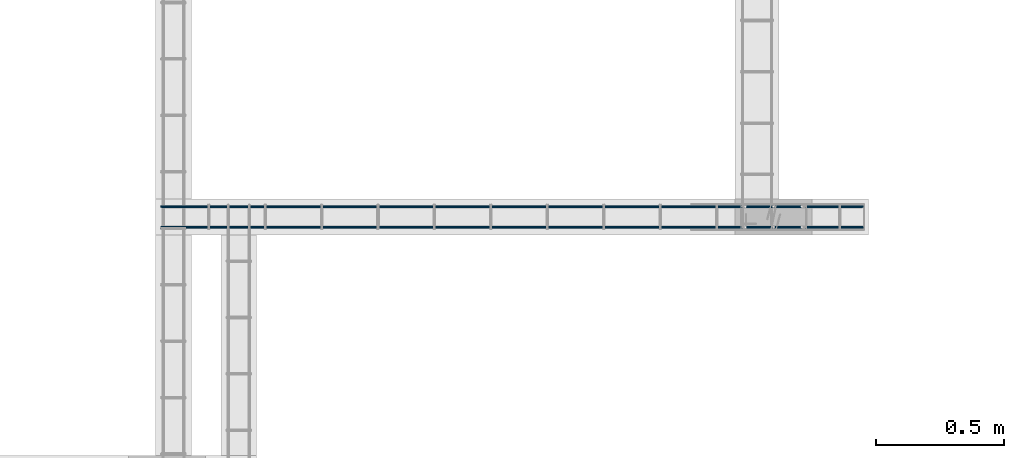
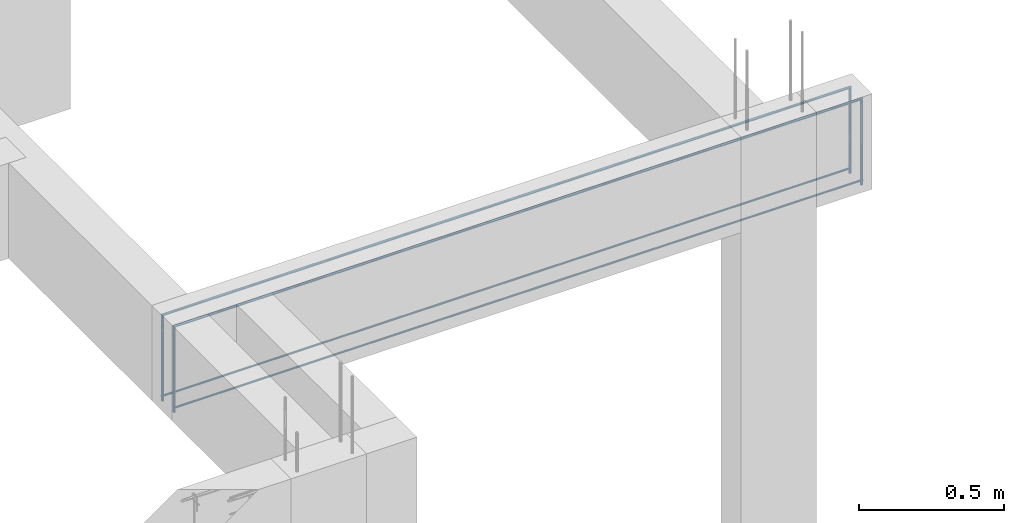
# One storey, part 106 of 236: 4 reinforcing bars.
"""IFC4 building model written with IfcOpenShell, lengths in centimetres."""

import ifcopenshell
import ifcopenshell.guid

model = None  # the IFC model being written
_history = None  # IfcOwnerHistory: only IFC2X3 demands one
_inside = {}  # id of a spatial element -> (the spatial element, [elements in it])
_under = {}  # id of a project, library or spatial element -> (it, [spatial elements below it])
_declared = {}  # id of a project -> (the project, [libraries it declares])
_typed = {}  # id of a type object -> (the type object, [elements of that type])
_made_of = {}  # id of a material, layer set ... -> (it, [elements and type objects made of it])


def new_model(schema):
    """Start an empty IFC model of exactly this schema.

    Asked for "IFC4X3", IfcOpenShell would pick the latest addendum, in which some entities
    have other attributes; the version numbers below select the first issue.
    IFC2X3 requires an IfcOwnerHistory on every rooted entity: one is made here for all.
    """
    global model, _history
    if schema == "IFC4X3":
        model = ifcopenshell.file(schema_version=(4, 3, 0, 0))
    else:
        model = ifcopenshell.file(schema=schema)
    _inside.clear()
    _under.clear()
    _declared.clear()
    _typed.clear()
    _made_of.clear()
    _history = None
    if model.schema == "IFC2X3":
        org = make("IfcOrganization", Name="unknown")
        user = make(
            "IfcPersonAndOrganization",
            ThePerson=make("IfcPerson", FamilyName="unknown"),
            TheOrganization=org,
        )
        app = make(
            "IfcApplication",
            ApplicationDeveloper=org,
            Version="unknown",
            ApplicationFullName="unknown",
            ApplicationIdentifier="unknown",
        )
        _history = make(
            "IfcOwnerHistory",
            OwningUser=user,
            OwningApplication=app,
            ChangeAction="ADDED",
            CreationDate=0,
        )
    return model


def make(cls, **values):
    """One entity of the class cls with the attributes given. An attribute that is None is left unset."""
    return model.create_entity(
        cls, **{name: value for name, value in values.items() if value is not None}
    )


def entity(cls, *values):
    """Any entity or typed value of the class cls, its attributes in the order of the schema. None: left unset."""
    e = model.create_entity(cls)
    for i, value in enumerate(values):
        if value is not None:
            e[i] = value
    return e


def rooted(cls, **values):
    """An entity with a GlobalId (a new one), such as an element, a storey or a relation."""
    return make(cls, GlobalId=ifcopenshell.guid.new(), OwnerHistory=_history, **values)


def si_unit(unit_type, name, prefix=None):
    """IfcSIUnit, for example si_unit("LENGTHUNIT", "METRE", prefix="MILLI")."""
    return make("IfcSIUnit", UnitType=unit_type, Prefix=prefix, Name=name)


def derived_unit(unit_type, elements):
    """IfcDerivedUnit: a product of units, each with its exponent."""
    return make(
        "IfcDerivedUnit",
        Elements=[
            make("IfcDerivedUnitElement", Unit=unit, Exponent=power)
            for unit, power in elements
        ],
        UnitType=unit_type,
    )


def assignment(units):
    """IfcUnitAssignment: the units of a project."""
    return None if units is None else make("IfcUnitAssignment", Units=units)


def point(xyz):
    """IfcCartesianPoint."""
    return None if xyz is None else make("IfcCartesianPoint", Coordinates=xyz)


def direction(xyz):
    """IfcDirection."""
    return None if xyz is None else make("IfcDirection", DirectionRatios=xyz)


def frame(location, z_axis=None, x_axis=None):
    """IfcAxis2Placement3D, a coordinate frame: its origin and axes. An axis left out is left unset."""
    return make(
        "IfcAxis2Placement3D",
        Location=point(location),
        Axis=direction(z_axis),
        RefDirection=direction(x_axis),
    )


def origin_with_axes():
    """The frame at (0, 0, 0) with the z axis (0, 0, 1) and the x axis (1, 0, 0) written out."""
    return frame((0.0, 0.0, 0.0), z_axis=(0.0, 0.0, 1.0), x_axis=(1.0, 0.0, 0.0))


def place(relative_to, where):
    """IfcLocalPlacement: puts the frame where relative to a parent placement (None: the world)."""
    return make(
        "IfcLocalPlacement", PlacementRelTo=relative_to, RelativePlacement=where
    )


def context(
    kind, dimensions, precision=None, world=None, true_north=None, identifier=None
):
    """IfcGeometricRepresentationContext, for example the 3D "Model" context."""
    return make(
        "IfcGeometricRepresentationContext",
        ContextIdentifier=identifier,
        ContextType=kind,
        CoordinateSpaceDimension=dimensions,
        Precision=precision,
        WorldCoordinateSystem=world,
        TrueNorth=true_north,
    )


def project(units=None, contexts=None):
    """IfcProject with its units and contexts."""
    return rooted(
        "IfcProject",
        Name="project",
        RepresentationContexts=contexts,
        UnitsInContext=assignment(units),
    )


def spatial(cls, under=None, at=None, **own):
    """A site, building, storey or space (cls), placed at a placement, below another one or the project."""
    s = rooted(cls, ObjectPlacement=at, **own)
    if under is not None:
        _under.setdefault(under.id(), (under, []))[1].append(s)
    return s


def shape(context_of_items, identifier, shape_type, items):
    """IfcShapeRepresentation: the items that make up one representation, for example the "Body"."""
    return make(
        "IfcShapeRepresentation",
        ContextOfItems=context_of_items,
        RepresentationIdentifier=identifier,
        RepresentationType=shape_type,
        Items=items,
    )


def made_of(thing, what):
    """Note that an element or type object is made of a material, layer set ...; save() writes the relation."""
    if what is not None:
        _made_of.setdefault(what.id(), (what, []))[1].append(thing)
    return thing


def element(
    cls,
    number,
    at=None,
    inside=None,
    cuts=None,
    type_object=None,
    material=None,
    context=None,
    identifier="Body",
    shape_type=None,
    held_by="IfcProductDefinitionShape",
    body=None,
    shapes=None,
    **own,
):
    """One element of the class cls, such as IfcWall. Its Tag is "e" and its number.

    at: its placement. inside: the storey or other place that contains it. cuts: it is an
    opening in that element (IfcRelVoidsElement). A single representation is given by context,
    identifier, shape_type and body (its items); several are given by shapes. held_by: the class
    of the entity that holds the representations. save() writes the other relations.
    """
    e = rooted(cls, Tag="e%d" % number, ObjectPlacement=at, **own)
    if body is not None:
        shapes = [shape(context, identifier, shape_type, body)]
    if shapes is not None:
        e.Representation = make(held_by, Representations=shapes)
    if inside is not None:
        _inside.setdefault(inside.id(), (inside, []))[1].append(e)
    if cuts is not None:
        rooted(
            "IfcRelVoidsElement", RelatingBuildingElement=cuts, RelatedOpeningElement=e
        )
    if type_object is not None:
        _typed.setdefault(type_object.id(), (type_object, []))[1].append(e)
    return made_of(e, material)


def aggregate(whole, parts):
    """IfcRelAggregates: a whole, such as a stair, and the parts it consists of."""
    return rooted("IfcRelAggregates", RelatingObject=whole, RelatedObjects=parts)


def save(model, path):
    """Write the relations noted so far, then the file.

    IfcRelAggregates (storeys below a building ...), IfcRelContainedInSpatialStructure (elements
    in a storey), IfcRelDefinesByType, IfcRelAssociatesMaterial and IfcRelDeclares: one each for
    every whole, place, type object, material and project.
    """
    for whole, parts in _under.values():
        aggregate(whole, parts)
    for where, things in _inside.values():
        rooted(
            "IfcRelContainedInSpatialStructure",
            RelatedElements=things,
            RelatingStructure=where,
        )
    for kind, things in _typed.values():
        rooted("IfcRelDefinesByType", RelatedObjects=things, RelatingType=kind)
    for what, things in _made_of.values():
        rooted("IfcRelAssociatesMaterial", RelatedObjects=things, RelatingMaterial=what)
    for by, libraries in _declared.values():
        rooted("IfcRelDeclares", RelatingContext=by, RelatedDefinitions=libraries)
    model.write(path)


model = new_model("IFC4")

# Units and contexts
model_context = context("Model", 3, precision=1e-05, world=origin_with_axes(), identifier="Body")
ifc_project = project(units=[si_unit("LENGTHUNIT", "METRE", prefix="CENTI"), si_unit("VOLUMEUNIT", "CUBIC_METRE"), si_unit("AREAUNIT", "SQUARE_METRE"), si_unit("POWERUNIT", "WATT"), si_unit("LUMINOUSFLUXUNIT", "LUMEN"), si_unit("ELECTRICCURRENTUNIT", "AMPERE"), si_unit("PRESSUREUNIT", "PASCAL", prefix="KILO"), si_unit("MASSUNIT", "GRAM", prefix="KILO"), si_unit("PLANEANGLEUNIT", "RADIAN"), derived_unit("VOLUMETRICFLOWRATEUNIT", [(si_unit("LENGTHUNIT", "METRE"), 3), (si_unit("TIMEUNIT", "SECOND"), -1)])], contexts=[model_context])

# Site, building, storey
site_placement = place(None, frame((-4000.0, 0.0, 0.0), z_axis=(0.0, 0.0, 1.0), x_axis=(1.0, 0.0, 0.0)))
site = spatial("IfcSite", under=ifc_project, at=site_placement, Name="PADRÃO")
building_placement = place(site_placement, frame((0.0, 0.0, -14.0)))
building = spatial("IfcBuilding", under=site, at=building_placement, Name="CRECHE PRÉ-ESCOLA TIPO 2")
placement_1 = place(building_placement, origin_with_axes())
placement_2 = place(placement_1, frame((0.0, 0.0, 30.0), z_axis=(0.0, 0.0, 1.0), x_axis=(1.0, 0.0, 0.0)))
storey_placement = place(placement_2, frame((0.0, 0.0, 310.0), z_axis=(0.0, 0.0, 1.0), x_axis=(1.0, 0.0, 0.0)))
storey = spatial("IfcBuildingStorey", under=building, at=storey_placement, Name="TERREO", CompositionType="ELEMENT", Elevation=326.0)

# Reinforcing bars
for number, where, z_axis, x_axis, name in (
    (1, (3270.5, 510.91, -36.7), (0.0, 0.0, 1.0), (1.0, 0.0, 0.0), "V256 - Longitudinal inferior"),
    (2, (3270.5, 519.11, -36.7), (0.0, 0.0, 1.0), (1.0, 0.0, 0.0), "V256 - Longitudinal inferior"),
):
    element("IfcReinforcingBar", number, at=place(storey_placement, frame(where, z_axis=z_axis, x_axis=x_axis)), inside=storey, Name=name, BarLength=0.0, CrossSectionArea=5.0265482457e-05, NominalDiameter=0.8, PredefinedType="MAIN", context=model_context, shape_type="AdvancedSweptSolid", body=[
        entity("IfcSweptDiskSolid", entity("IfcCompositeCurve", [entity("IfcCompositeCurveSegment", "CONTINUOUS", True, entity("IfcPolyline", [entity("IfcCartesianPoint", [-137.0, 0.0, -0.4]), entity("IfcCartesianPoint", [137.0, 0.0, -0.4])]))], False), 0.4),
    ])
for number, where, z_axis, x_axis, name in (
    (3, (3270.5, 519.01, -2.49531217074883), (0.0, 0.0, 1.0), (1.0, 0.0, 0.0), "V256 - Longitudinal superior"),
    (4, (3270.5, 511.01, -2.49531217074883), (0.0, 0.0, 1.0), (1.0, 0.0, 0.0), "V256 - Longitudinal superior"),
):
    element("IfcReinforcingBar", number, at=place(storey_placement, frame(where, z_axis=z_axis, x_axis=x_axis)), inside=storey, Name=name, BarLength=0.0, CrossSectionArea=7.853981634e-05, NominalDiameter=1.0, PredefinedType="MAIN", context=model_context, shape_type="AdvancedSweptSolid", body=[
        entity("IfcSweptDiskSolid", entity("IfcCompositeCurve", [entity("IfcCompositeCurveSegment", "CONTINUOUS", True, entity("IfcPolyline", [entity("IfcCartesianPoint", [-136.5, 0.0, -36.5046878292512]), entity("IfcCartesianPoint", [-136.5, 0.0, -0.504687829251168])])), entity("IfcCompositeCurveSegment", "CONTINUOUS", True, entity("IfcPolyline", [entity("IfcCartesianPoint", [-136.5, 0.0, -0.504687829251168]), entity("IfcCartesianPoint", [136.5, 0.0, -0.504687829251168])])), entity("IfcCompositeCurveSegment", "CONTINUOUS", True, entity("IfcPolyline", [entity("IfcCartesianPoint", [136.5, 0.0, -0.504687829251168]), entity("IfcCartesianPoint", [136.5, 0.0, -36.5046878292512])]))], False), 0.5),
    ])

save(model, "model.ifc")
